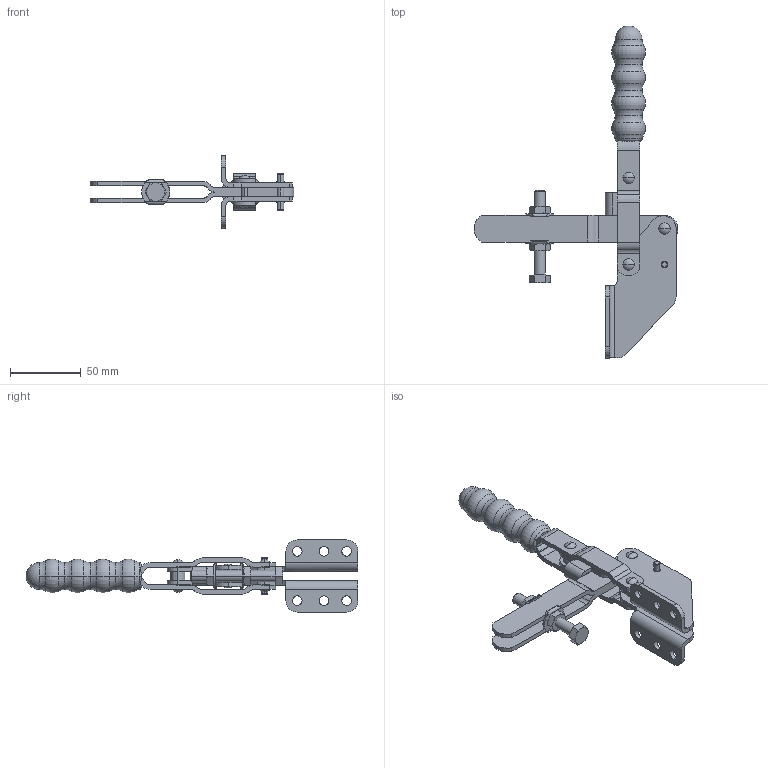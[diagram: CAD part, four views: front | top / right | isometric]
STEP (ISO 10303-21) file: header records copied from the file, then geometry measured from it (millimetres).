
FILE_DESCRIPTION(('STEP AP214'),'1');
FILE_NAME('boutet_sauterelle_5983-1-0.stp','2018-11-26T13:31:27',('TraceParts'),('TraceParts S.A.'),'Spatial InterOp 3D',' ',' ');
FILE_SCHEMA(('AUTOMOTIVE_DESIGN { 1 0 10303 214 1 1 1 1 }'));
Length unit declared in the file: millimetre
Products named in the file (1): boutet_sauterelle_5983-1-0_1
Bounding box: 144.31 x 234.93 x 51 mm (x, y, z)
Volume: 93848.5 mm3; surface area: 52764.9 mm2
Topology: 10 solids, 10 shells, 337 faces, 856 edges, 552 vertices
Faces by surface type: cylinder 132, plane 116, cone 46, torus 26, sphere 17
Entity records: 10829 total; most frequent: CARTESIAN_POINT 2433, DIRECTION 1862, ORIENTED_EDGE 1708, EDGE_CURVE 854, AXIS2_PLACEMENT_3D 753, VERTEX_POINT 552, CIRCLE 406, EDGE_LOOP 394
